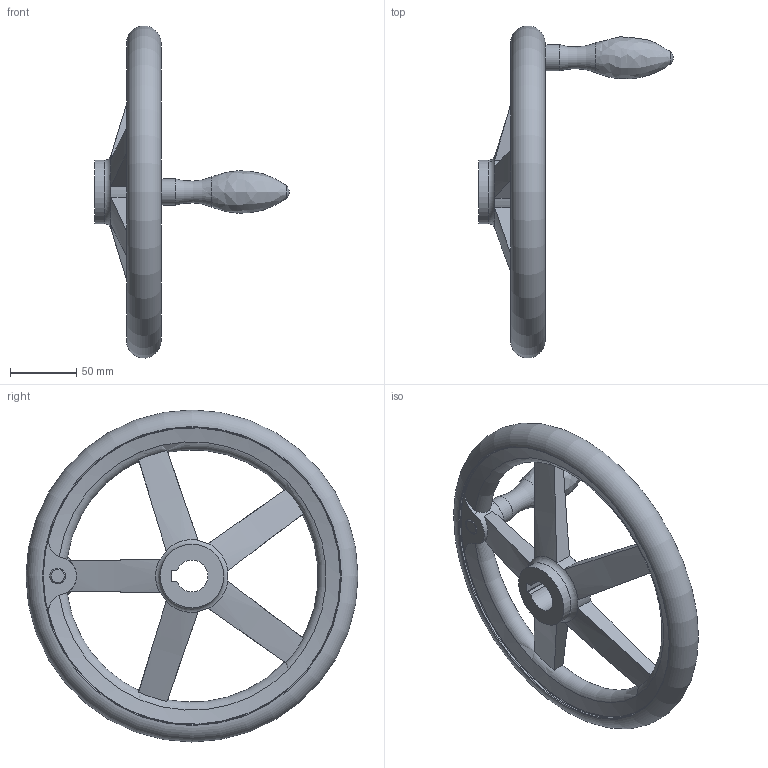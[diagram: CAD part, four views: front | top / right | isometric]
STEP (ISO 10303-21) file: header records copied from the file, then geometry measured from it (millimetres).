
FILE_DESCRIPTION( ( 'STEP AP203' ), '1' );
FILE_NAME( 'C:/Temp/Ganter_Step_05_03_2020/data/1_3/din_950/din_950_k/din_950_k_f/Handwheel DIN 950-GG-250-K24-F.stp', '2020-03-05T10:31:21', ( 'License CC BY-ND 4.0' ), ( 'CADENAS' ), ' ', 'PARTsolutions', ' ' );
FILE_SCHEMA( ( 'CONFIG_CONTROL_DESIGN' ) );
Length unit declared in the file: millimetre
Products named in the file (1): _Handwheel DIN 950-GG-250-K24-F
Bounding box: 146.5 x 249.94 x 249.94 mm (x, y, z)
Volume: 557676.9 mm3; surface area: 102109.5 mm2
Topology: 1 solids, 1 shells, 61 faces, 179 edges, 116 vertices
Faces by surface type: cylinder 19, plane 18, torus 13, cone 9, sphere 1, bspline 1
Full cylindrical faces by diameter (mm): 12 x1, 19.8 x1, 48 x2, 224 x2
Entity records: 2449 total; most frequent: CARTESIAN_POINT 952, ORIENTED_EDGE 306, DIRECTION 276, EDGE_CURVE 153, AXIS2_PLACEMENT_3D 124, VERTEX_POINT 110, EDGE_LOOP 87, FACE_OUTER_BOUND 76
